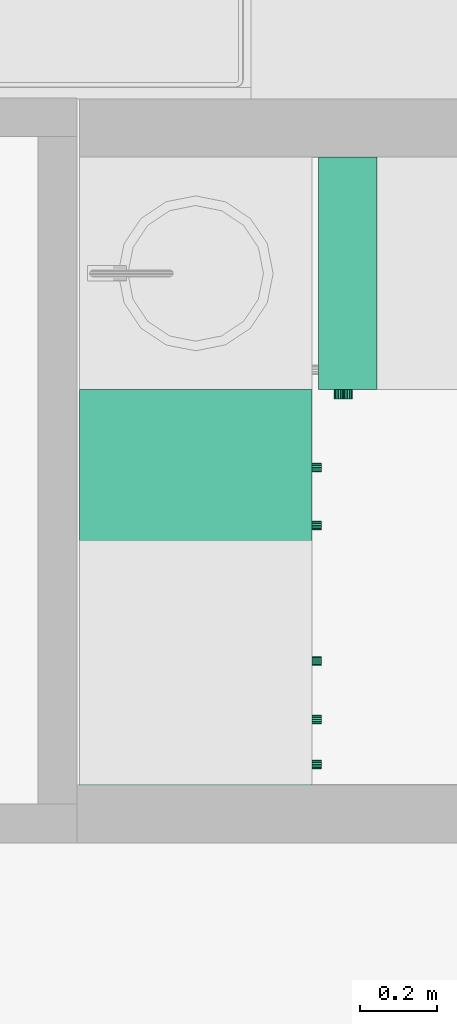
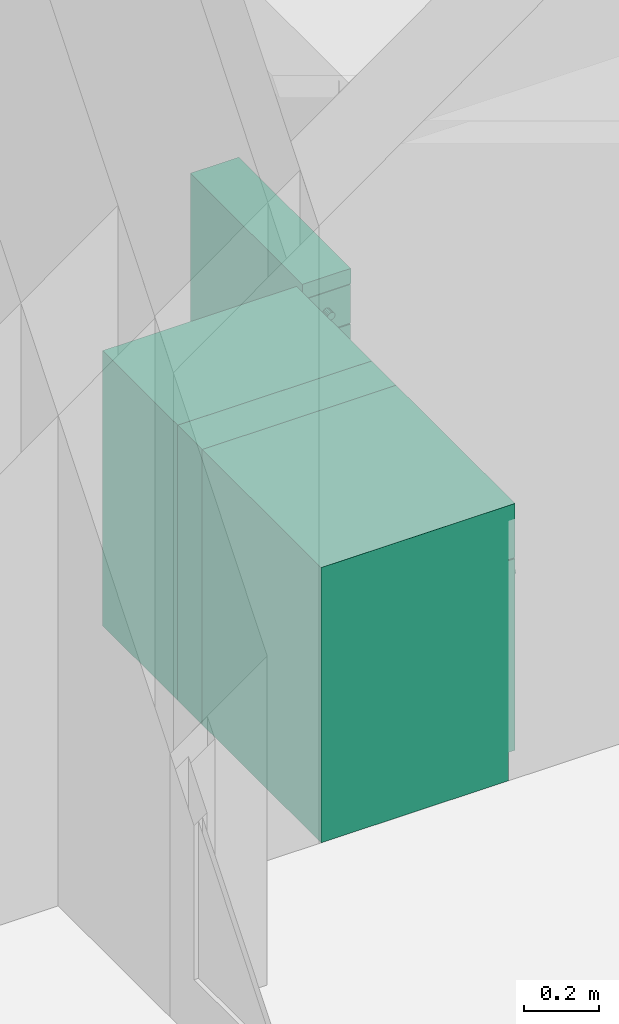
# One storey, part 43 of 165: 4 flow terminals.
"""IFC2X3 building model written with IfcOpenShell, lengths in millimetres."""

from ifc_helpers import new_model, entity, si_unit, converted_unit, money_unit, direction, frame, origin_with_axes, place, context, subcontext, project, spatial, faceted_brep, source, transform, mapped, material, material_list, type_object, element, save


model = new_model("IFC2X3")

# Units and contexts
model_context = context("Model", 3, precision=1e-05, world=origin_with_axes(), true_north=direction((0.0, 1.0)))
body_context = subcontext(model_context, "Body", "Model", "MODEL_VIEW")
ifc_project = project(units=[si_unit("LENGTHUNIT", "METRE", prefix="MILLI"), si_unit("AREAUNIT", "SQUARE_METRE"), si_unit("VOLUMEUNIT", "CUBIC_METRE"), converted_unit("PLANEANGLEUNIT", "DEGREE", entity("IfcPlaneAngleMeasure", 0.0174532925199), si_unit("PLANEANGLEUNIT", "RADIAN"), dimensions=[0, 0, 0, 0, 0, 0, 0]), si_unit("SOLIDANGLEUNIT", "STERADIAN"), money_unit("USD"), converted_unit("TIMEUNIT", "Year", entity("IfcTimeMeasure", 31556926.0), si_unit("TIMEUNIT", "SECOND"), dimensions=[0, 0, 0, 0, 0, 0, 0]), si_unit("MASSUNIT", "GRAM"), si_unit("THERMODYNAMICTEMPERATUREUNIT", "DEGREE_CELSIUS"), si_unit("LUMINOUSINTENSITYUNIT", "LUMEN")], contexts=[model_context])

# Site, building, storey
site_placement = place(None, origin_with_axes())
site = spatial("IfcSite", under=ifc_project, at=site_placement, Name="Site", CompositionType="ELEMENT")
building_placement = place(site_placement, origin_with_axes())
building = spatial("IfcBuilding", under=site, at=building_placement, Name="Building", CompositionType="ELEMENT")
storey_placement = place(building_placement, frame((0.0, 0.0, 6300.0), z_axis=(0.0, 0.0, 1.0), x_axis=(1.0, 0.0, 0.0)))
storey = spatial("IfcBuildingStorey", under=building, at=storey_placement, Name="4KORRUS", CompositionType="ELEMENT", Elevation=6300.0)

# Flow terminals
ifc_material = material(Name="Background")
ifc_material_list = material_list([ifc_material])
sanitary_terminal_type = type_object("IfcSanitaryTerminalType", Name="Cabinet Base Single Door 19", PredefinedType="SINK")
shared_shape_1 = source(origin_with_axes(), body_context, "Body", "Brep", [
    faceted_brep([(-20.0, 20.0, 710.0), (-20.0, 20.0, 730.0), (-382.248, 20.0, 730.0), (-382.248, 20.0, 710.0), (-20.0, 580.0, 710.0), (-20.0, 580.0, 730.0), (-382.248, 580.0, 730.0), (-382.248, 580.0, 710.0)], [[[0, 1, 2, 3]], [[4, 5, 1, 0]], [[1, 5, 6, 2]], [[3, 2, 6, 7]], [[0, 3, 7, 4]], [[7, 6, 5, 4]]]),
    faceted_brep([(0.0, 20.0, 0.0), (0.0, 20.0, 90.0), (-402.248, 20.0, 90.0), (-402.248, 20.0, 0.0), (0.0, 600.0, 0.0), (0.0, 600.0, 90.0), (-402.248, 600.0, 90.0), (-402.248, 600.0, 0.0)], [[[0, 1, 2, 3]], [[4, 5, 1, 0]], [[1, 5, 6, 2]], [[3, 2, 6, 7]], [[0, 3, 7, 4]], [[7, 6, 5, 4]]]),
    faceted_brep([(0.0, 20.0, 830.0), (0.0, 20.0, 850.0), (-20.0, 20.0, 850.0), (-20.0, 20.0, 830.0), (0.0, 600.0, 830.0), (0.0, 600.0, 850.0), (-20.0, 600.0, 850.0), (-382.248, 600.0, 850.0), (-402.248, 600.0, 850.0), (-402.248, 20.0, 850.0), (-382.248, 20.0, 850.0), (-382.248, 20.0, 830.0), (-402.248, 20.0, 830.0), (-402.248, 600.0, 830.0), (-382.248, 600.0, 830.0), (-20.0, 600.0, 830.0)], [[[0, 1, 2, 3]], [[4, 5, 1, 0]], [[1, 5, 6, 7, 8, 9, 10, 2]], [[3, 2, 10, 11]], [[0, 3, 11, 12, 13, 14, 15, 4]], [[15, 6, 5, 4]], [[14, 7, 6, 15]], [[13, 8, 7, 14]], [[12, 9, 8, 13]], [[11, 10, 9, 12]]]),
    faceted_brep([(0.0, 20.0, 90.0), (0.0, 20.0, 110.0), (-20.0, 20.0, 110.0), (-20.0, 20.0, 90.0), (0.0, 600.0, 90.0), (0.0, 600.0, 110.0), (-20.0, 600.0, 110.0), (-382.248, 600.0, 110.0), (-402.248, 600.0, 110.0), (-402.248, 20.0, 110.0), (-382.248, 20.0, 110.0), (-382.248, 20.0, 90.0), (-402.248, 20.0, 90.0), (-402.248, 600.0, 90.0), (-382.248, 600.0, 90.0), (-20.0, 600.0, 90.0)], [[[0, 1, 2, 3]], [[4, 5, 1, 0]], [[1, 5, 6, 7, 8, 9, 10, 2]], [[3, 2, 10, 11]], [[0, 3, 11, 12, 13, 14, 15, 4]], [[15, 6, 5, 4]], [[14, 7, 6, 15]], [[13, 8, 7, 14]], [[12, 9, 8, 13]], [[11, 10, 9, 12]]]),
    faceted_brep([(0.0, 20.0, 110.0), (0.0, 20.0, 830.0), (-20.0, 20.0, 830.0), (-20.0, 20.0, 110.0), (0.0, 600.0, 110.0), (0.0, 600.0, 830.0), (-402.248, 600.0, 830.0), (-402.248, 20.0, 830.0), (-382.248, 20.0, 830.0), (-382.248, 580.0, 830.0), (-20.0, 580.0, 830.0), (-20.0, 580.0, 110.0), (-382.248, 580.0, 110.0), (-382.248, 20.0, 110.0), (-402.248, 20.0, 110.0), (-402.248, 600.0, 110.0)], [[[0, 1, 2, 3]], [[4, 5, 1, 0]], [[1, 5, 6, 7, 8, 9, 10, 2]], [[3, 2, 10, 11]], [[0, 3, 11, 12, 13, 14, 15, 4]], [[15, 6, 5, 4]], [[14, 7, 6, 15]], [[13, 8, 7, 14]], [[12, 9, 8, 13]], [[11, 10, 9, 12]]]),
    faceted_brep([(-382.248, 20.0, 385.0), (-382.248, 20.0, 405.0), (-382.248, 580.0, 405.0), (-382.248, 580.0, 385.0), (-20.0, 20.0, 385.0), (-20.0, 20.0, 405.0), (-20.0, 580.0, 405.0), (-20.0, 580.0, 385.0)], [[[0, 1, 2, 3]], [[4, 5, 1, 0]], [[1, 5, 6, 2]], [[3, 2, 6, 7]], [[0, 3, 7, 4]], [[7, 6, 5, 4]]]),
    faceted_brep([(0.0, 0.0, 850.0), (0.0, 0.0, 900.0), (-402.248, 0.0, 900.0), (-402.248, 0.0, 850.0), (0.0, 600.0, 850.0), (0.0, 600.0, 900.0), (-402.248, 600.0, 900.0), (-402.248, 600.0, 850.0)], [[[0, 1, 2, 3]], [[4, 5, 1, 0]], [[1, 5, 6, 2]], [[3, 2, 6, 7]], [[0, 3, 7, 4]], [[7, 6, 5, 4]]]),
    faceted_brep([(-1.5, 20.0, 721.5), (-1.5, 0.0, 721.5), (-400.748, 0.0, 721.5), (-400.748, 20.0, 721.5), (-1.5, 20.0, 848.5), (-1.5, 0.0, 848.5), (-400.748, 0.0, 848.5), (-400.748, 20.0, 848.5)], [[[0, 1, 2, 3]], [[4, 5, 1, 0]], [[1, 5, 6, 2]], [[3, 2, 6, 7]], [[0, 3, 7, 4]], [[7, 6, 5, 4]]]),
    faceted_brep([(-196.532, 0.0, 773.913), (-201.124, 0.0, 773.0), (-205.716, 0.0, 773.913), (-209.609, 0.0, 776.515), (-212.211, 0.0, 780.408), (-213.124, 0.0, 785.0), (-212.211, 0.0, 789.592), (-209.609, 0.0, 793.485), (-205.716, 0.0, 796.087), (-201.124, 0.0, 797.0), (-196.532, 0.0, 796.087), (-192.639, 0.0, 793.485), (-190.038, 0.0, 789.592), (-189.124, 0.0, 785.0), (-190.038, 0.0, 780.408), (-192.639, 0.0, 776.515), (-196.532, -25.0, 773.913), (-201.124, -25.0, 773.0), (-205.716, -25.0, 773.913), (-209.609, -25.0, 776.515), (-212.211, -25.0, 780.408), (-213.124, -25.0, 785.0), (-212.211, -25.0, 789.592), (-209.609, -25.0, 793.485), (-205.716, -25.0, 796.087), (-201.124, -25.0, 797.0), (-196.532, -25.0, 796.087), (-192.639, -25.0, 793.485), (-190.038, -25.0, 789.592), (-189.124, -25.0, 785.0), (-190.038, -25.0, 780.408), (-192.639, -25.0, 776.515)], [[[0, 1, 2, 3, 4, 5, 6, 7, 8, 9, 10, 11, 12, 13, 14, 15]], [[0, 16, 17, 1]], [[1, 17, 18, 2]], [[2, 18, 19, 3]], [[3, 19, 20, 4]], [[4, 20, 21, 5]], [[5, 21, 22, 6]], [[6, 22, 23, 7]], [[7, 23, 24, 8]], [[8, 24, 25, 9]], [[9, 25, 26, 10]], [[10, 26, 27, 11]], [[11, 27, 28, 12]], [[12, 28, 29, 13]], [[13, 29, 30, 14]], [[14, 30, 31, 15]], [[15, 31, 16, 0]], [[16, 31, 30, 29, 28, 27, 26, 25, 24, 23, 22, 21, 20, 19, 18, 17]]]),
    faceted_brep([(-1.5, 20.0, 91.5), (-1.5, 0.0, 91.5), (-400.748, 0.0, 91.5), (-400.748, 20.0, 91.5), (-1.5, 20.0, 718.5), (-1.5, 0.0, 718.5), (-400.748, 0.0, 718.5), (-400.748, 20.0, 718.5)], [[[0, 1, 2, 3]], [[4, 5, 1, 0]], [[1, 5, 6, 2]], [[3, 2, 6, 7]], [[0, 3, 7, 4]], [[7, 6, 5, 4]]]),
    faceted_brep([(-361.835, 0.0, 636.908), (-362.748, 0.0, 641.5), (-361.835, 0.0, 646.092), (-359.234, 0.0, 649.985), (-355.341, 0.0, 652.587), (-350.748, 0.0, 653.5), (-346.156, 0.0, 652.587), (-342.263, 0.0, 649.985), (-339.662, 0.0, 646.092), (-338.748, 0.0, 641.5), (-339.662, 0.0, 636.908), (-342.263, 0.0, 633.015), (-346.156, 0.0, 630.413), (-350.748, 0.0, 629.5), (-355.341, 0.0, 630.413), (-359.234, 0.0, 633.015), (-361.835, -25.0, 636.908), (-362.748, -25.0, 641.5), (-361.835, -25.0, 646.092), (-359.234, -25.0, 649.985), (-355.341, -25.0, 652.587), (-350.748, -25.0, 653.5), (-346.156, -25.0, 652.587), (-342.263, -25.0, 649.985), (-339.662, -25.0, 646.092), (-338.748, -25.0, 641.5), (-339.662, -25.0, 636.908), (-342.263, -25.0, 633.015), (-346.156, -25.0, 630.413), (-350.748, -25.0, 629.5), (-355.341, -25.0, 630.413), (-359.234, -25.0, 633.015)], [[[0, 1, 2, 3, 4, 5, 6, 7, 8, 9, 10, 11, 12, 13, 14, 15]], [[0, 16, 17, 1]], [[1, 17, 18, 2]], [[2, 18, 19, 3]], [[3, 19, 20, 4]], [[4, 20, 21, 5]], [[5, 21, 22, 6]], [[6, 22, 23, 7]], [[7, 23, 24, 8]], [[8, 24, 25, 9]], [[9, 25, 26, 10]], [[10, 26, 27, 11]], [[11, 27, 28, 12]], [[12, 28, 29, 13]], [[13, 29, 30, 14]], [[14, 30, 31, 15]], [[15, 31, 16, 0]], [[16, 31, 30, 29, 28, 27, 26, 25, 24, 23, 22, 21, 20, 19, 18, 17]]]),
])
flow_terminal_1_placement = place(storey_placement, frame((-4933.30226501, -9966.37850445, 0.0), z_axis=(0.0, 0.0, 1.0), x_axis=(0.0, 1.0, 0.0)))
element("IfcFlowTerminal", 1, at=flow_terminal_1_placement, inside=storey, type_object=sanitary_terminal_type, material=ifc_material_list, Name="FU - 007", context=body_context, shape_type="MappedRepresentation", body=[
    mapped(shared_shape_1, transform((0.0, 0.0, 0.0))),
])
shared_shape_2 = source(origin_with_axes(), body_context, "Body", "Brep", [
    faceted_brep([(-20.0, 20.0, 710.0), (-20.0, 20.0, 730.0), (-130.0, 20.0, 730.0), (-130.0, 20.0, 710.0), (-20.0, 580.0, 710.0), (-20.0, 580.0, 730.0), (-130.0, 580.0, 730.0), (-130.0, 580.0, 710.0)], [[[0, 1, 2, 3]], [[4, 5, 1, 0]], [[1, 5, 6, 2]], [[3, 2, 6, 7]], [[0, 3, 7, 4]], [[7, 6, 5, 4]]]),
    faceted_brep([(0.0, 20.0, 0.0), (0.0, 20.0, 90.0), (-150.0, 20.0, 90.0), (-150.0, 20.0, 0.0), (0.0, 600.0, 0.0), (0.0, 600.0, 90.0), (-150.0, 600.0, 90.0), (-150.0, 600.0, 0.0)], [[[0, 1, 2, 3]], [[4, 5, 1, 0]], [[1, 5, 6, 2]], [[3, 2, 6, 7]], [[0, 3, 7, 4]], [[7, 6, 5, 4]]]),
    faceted_brep([(0.0, 20.0, 830.0), (0.0, 20.0, 850.0), (-20.0, 20.0, 850.0), (-20.0, 20.0, 830.0), (0.0, 600.0, 830.0), (0.0, 600.0, 850.0), (-20.0, 600.0, 850.0), (-130.0, 600.0, 850.0), (-150.0, 600.0, 850.0), (-150.0, 20.0, 850.0), (-130.0, 20.0, 850.0), (-130.0, 20.0, 830.0), (-150.0, 20.0, 830.0), (-150.0, 600.0, 830.0), (-130.0, 600.0, 830.0), (-20.0, 600.0, 830.0)], [[[0, 1, 2, 3]], [[4, 5, 1, 0]], [[1, 5, 6, 7, 8, 9, 10, 2]], [[3, 2, 10, 11]], [[0, 3, 11, 12, 13, 14, 15, 4]], [[15, 6, 5, 4]], [[14, 7, 6, 15]], [[13, 8, 7, 14]], [[12, 9, 8, 13]], [[11, 10, 9, 12]]]),
    faceted_brep([(0.0, 20.0, 90.0), (0.0, 20.0, 110.0), (-20.0, 20.0, 110.0), (-20.0, 20.0, 90.0), (0.0, 600.0, 90.0), (0.0, 600.0, 110.0), (-20.0, 600.0, 110.0), (-130.0, 600.0, 110.0), (-150.0, 600.0, 110.0), (-150.0, 20.0, 110.0), (-130.0, 20.0, 110.0), (-130.0, 20.0, 90.0), (-150.0, 20.0, 90.0), (-150.0, 600.0, 90.0), (-130.0, 600.0, 90.0), (-20.0, 600.0, 90.0)], [[[0, 1, 2, 3]], [[4, 5, 1, 0]], [[1, 5, 6, 7, 8, 9, 10, 2]], [[3, 2, 10, 11]], [[0, 3, 11, 12, 13, 14, 15, 4]], [[15, 6, 5, 4]], [[14, 7, 6, 15]], [[13, 8, 7, 14]], [[12, 9, 8, 13]], [[11, 10, 9, 12]]]),
    faceted_brep([(0.0, 20.0, 110.0), (0.0, 20.0, 830.0), (-20.0, 20.0, 830.0), (-20.0, 20.0, 110.0), (0.0, 600.0, 110.0), (0.0, 600.0, 830.0), (-150.0, 600.0, 830.0), (-150.0, 20.0, 830.0), (-130.0, 20.0, 830.0), (-130.0, 580.0, 830.0), (-20.0, 580.0, 830.0), (-20.0, 580.0, 110.0), (-130.0, 580.0, 110.0), (-130.0, 20.0, 110.0), (-150.0, 20.0, 110.0), (-150.0, 600.0, 110.0)], [[[0, 1, 2, 3]], [[4, 5, 1, 0]], [[1, 5, 6, 7, 8, 9, 10, 2]], [[3, 2, 10, 11]], [[0, 3, 11, 12, 13, 14, 15, 4]], [[15, 6, 5, 4]], [[14, 7, 6, 15]], [[13, 8, 7, 14]], [[12, 9, 8, 13]], [[11, 10, 9, 12]]]),
    faceted_brep([(-130.0, 20.0, 385.0), (-130.0, 20.0, 405.0), (-130.0, 580.0, 405.0), (-130.0, 580.0, 385.0), (-20.0, 20.0, 385.0), (-20.0, 20.0, 405.0), (-20.0, 580.0, 405.0), (-20.0, 580.0, 385.0)], [[[0, 1, 2, 3]], [[4, 5, 1, 0]], [[1, 5, 6, 2]], [[3, 2, 6, 7]], [[0, 3, 7, 4]], [[7, 6, 5, 4]]]),
    faceted_brep([(0.0, 0.0, 850.0), (0.0, 0.0, 900.0), (-150.0, 0.0, 900.0), (-150.0, 0.0, 850.0), (0.0, 600.0, 850.0), (0.0, 600.0, 900.0), (-150.0, 600.0, 900.0), (-150.0, 600.0, 850.0)], [[[0, 1, 2, 3]], [[4, 5, 1, 0]], [[1, 5, 6, 2]], [[3, 2, 6, 7]], [[0, 3, 7, 4]], [[7, 6, 5, 4]]]),
    faceted_brep([(-1.5, 20.0, 721.5), (-1.5, 0.0, 721.5), (-148.5, 0.0, 721.5), (-148.5, 20.0, 721.5), (-1.5, 20.0, 848.5), (-1.5, 0.0, 848.5), (-148.5, 0.0, 848.5), (-148.5, 20.0, 848.5)], [[[0, 1, 2, 3]], [[4, 5, 1, 0]], [[1, 5, 6, 2]], [[3, 2, 6, 7]], [[0, 3, 7, 4]], [[7, 6, 5, 4]]]),
    faceted_brep([(-70.408, 0.0, 773.913), (-75.0, 0.0, 773.0), (-79.592, 0.0, 773.913), (-83.485, 0.0, 776.515), (-86.087, 0.0, 780.408), (-87.0, 0.0, 785.0), (-86.087, 0.0, 789.592), (-83.485, 0.0, 793.485), (-79.592, 0.0, 796.087), (-75.0, 0.0, 797.0), (-70.408, 0.0, 796.087), (-66.515, 0.0, 793.485), (-63.913, 0.0, 789.592), (-63.0, 0.0, 785.0), (-63.913, 0.0, 780.408), (-66.515, 0.0, 776.515), (-70.408, -25.0, 773.913), (-75.0, -25.0, 773.0), (-79.592, -25.0, 773.913), (-83.485, -25.0, 776.515), (-86.087, -25.0, 780.408), (-87.0, -25.0, 785.0), (-86.087, -25.0, 789.592), (-83.485, -25.0, 793.485), (-79.592, -25.0, 796.087), (-75.0, -25.0, 797.0), (-70.408, -25.0, 796.087), (-66.515, -25.0, 793.485), (-63.913, -25.0, 789.592), (-63.0, -25.0, 785.0), (-63.913, -25.0, 780.408), (-66.515, -25.0, 776.515)], [[[0, 1, 2, 3, 4, 5, 6, 7, 8, 9, 10, 11, 12, 13, 14, 15]], [[0, 16, 17, 1]], [[1, 17, 18, 2]], [[2, 18, 19, 3]], [[3, 19, 20, 4]], [[4, 20, 21, 5]], [[5, 21, 22, 6]], [[6, 22, 23, 7]], [[7, 23, 24, 8]], [[8, 24, 25, 9]], [[9, 25, 26, 10]], [[10, 26, 27, 11]], [[11, 27, 28, 12]], [[12, 28, 29, 13]], [[13, 29, 30, 14]], [[14, 30, 31, 15]], [[15, 31, 16, 0]], [[16, 31, 30, 29, 28, 27, 26, 25, 24, 23, 22, 21, 20, 19, 18, 17]]]),
    faceted_brep([(-1.5, 20.0, 91.5), (-1.5, 0.0, 91.5), (-148.5, 0.0, 91.5), (-148.5, 20.0, 91.5), (-1.5, 20.0, 718.5), (-1.5, 0.0, 718.5), (-148.5, 0.0, 718.5), (-148.5, 20.0, 718.5)], [[[0, 1, 2, 3]], [[4, 5, 1, 0]], [[1, 5, 6, 2]], [[3, 2, 6, 7]], [[0, 3, 7, 4]], [[7, 6, 5, 4]]]),
    faceted_brep([(-109.587, 0.0, 636.908), (-110.5, 0.0, 641.5), (-109.587, 0.0, 646.092), (-106.985, 0.0, 649.985), (-103.092, 0.0, 652.587), (-98.5, 0.0, 653.5), (-93.908, 0.0, 652.587), (-90.015, 0.0, 649.985), (-87.413, 0.0, 646.092), (-86.5, 0.0, 641.5), (-87.413, 0.0, 636.908), (-90.015, 0.0, 633.015), (-93.908, 0.0, 630.413), (-98.5, 0.0, 629.5), (-103.092, 0.0, 630.413), (-106.985, 0.0, 633.015), (-109.587, -25.0, 636.908), (-110.5, -25.0, 641.5), (-109.587, -25.0, 646.092), (-106.985, -25.0, 649.985), (-103.092, -25.0, 652.587), (-98.5, -25.0, 653.5), (-93.908, -25.0, 652.587), (-90.015, -25.0, 649.985), (-87.413, -25.0, 646.092), (-86.5, -25.0, 641.5), (-87.413, -25.0, 636.908), (-90.015, -25.0, 633.015), (-93.908, -25.0, 630.413), (-98.5, -25.0, 629.5), (-103.092, -25.0, 630.413), (-106.985, -25.0, 633.015)], [[[0, 1, 2, 3, 4, 5, 6, 7, 8, 9, 10, 11, 12, 13, 14, 15]], [[0, 16, 17, 1]], [[1, 17, 18, 2]], [[2, 18, 19, 3]], [[3, 19, 20, 4]], [[4, 20, 21, 5]], [[5, 21, 22, 6]], [[6, 22, 23, 7]], [[7, 23, 24, 8]], [[8, 24, 25, 9]], [[9, 25, 26, 10]], [[10, 26, 27, 11]], [[11, 27, 28, 12]], [[12, 28, 29, 13]], [[13, 29, 30, 14]], [[14, 30, 31, 15]], [[15, 31, 16, 0]], [[16, 31, 30, 29, 28, 27, 26, 25, 24, 23, 22, 21, 20, 19, 18, 17]]]),
])
flow_terminal_2_placement = place(storey_placement, frame((-4765.7435229, -9966.37850445, 0.0), z_axis=(0.0, 0.0, 1.0), x_axis=(1.0, 0.0, 0.0)))
element("IfcFlowTerminal", 2, at=flow_terminal_2_placement, inside=storey, type_object=sanitary_terminal_type, material=ifc_material_list, Name="FU - 007", context=body_context, shape_type="MappedRepresentation", body=[
    mapped(shared_shape_2, transform((0.0, 0.0, 0.0))),
])
shared_shape_3 = source(origin_with_axes(), body_context, "Body", "Brep", [
    faceted_brep([(-20.0, 20.0, 710.0), (-20.0, 20.0, 730.0), (-616.859, 20.0, 730.0), (-616.859, 20.0, 710.0), (-20.0, 580.0, 710.0), (-20.0, 580.0, 730.0), (-616.859, 580.0, 730.0), (-616.859, 580.0, 710.0)], [[[0, 1, 2, 3]], [[4, 5, 1, 0]], [[1, 5, 6, 2]], [[3, 2, 6, 7]], [[0, 3, 7, 4]], [[7, 6, 5, 4]]]),
    faceted_brep([(0.0, 20.0, 0.0), (0.0, 20.0, 90.0), (-636.859, 20.0, 90.0), (-636.859, 20.0, 0.0), (0.0, 600.0, 0.0), (0.0, 600.0, 90.0), (-636.859, 600.0, 90.0), (-636.859, 600.0, 0.0)], [[[0, 1, 2, 3]], [[4, 5, 1, 0]], [[1, 5, 6, 2]], [[3, 2, 6, 7]], [[0, 3, 7, 4]], [[7, 6, 5, 4]]]),
    faceted_brep([(0.0, 20.0, 830.0), (0.0, 20.0, 850.0), (-20.0, 20.0, 850.0), (-20.0, 20.0, 830.0), (0.0, 600.0, 830.0), (0.0, 600.0, 850.0), (-20.0, 600.0, 850.0), (-616.859, 600.0, 850.0), (-636.859, 600.0, 850.0), (-636.859, 20.0, 850.0), (-616.859, 20.0, 850.0), (-616.859, 20.0, 830.0), (-636.859, 20.0, 830.0), (-636.859, 600.0, 830.0), (-616.859, 600.0, 830.0), (-20.0, 600.0, 830.0)], [[[0, 1, 2, 3]], [[4, 5, 1, 0]], [[1, 5, 6, 7, 8, 9, 10, 2]], [[3, 2, 10, 11]], [[0, 3, 11, 12, 13, 14, 15, 4]], [[15, 6, 5, 4]], [[14, 7, 6, 15]], [[13, 8, 7, 14]], [[12, 9, 8, 13]], [[11, 10, 9, 12]]]),
    faceted_brep([(0.0, 20.0, 90.0), (0.0, 20.0, 110.0), (-20.0, 20.0, 110.0), (-20.0, 20.0, 90.0), (0.0, 600.0, 90.0), (0.0, 600.0, 110.0), (-20.0, 600.0, 110.0), (-616.859, 600.0, 110.0), (-636.859, 600.0, 110.0), (-636.859, 20.0, 110.0), (-616.859, 20.0, 110.0), (-616.859, 20.0, 90.0), (-636.859, 20.0, 90.0), (-636.859, 600.0, 90.0), (-616.859, 600.0, 90.0), (-20.0, 600.0, 90.0)], [[[0, 1, 2, 3]], [[4, 5, 1, 0]], [[1, 5, 6, 7, 8, 9, 10, 2]], [[3, 2, 10, 11]], [[0, 3, 11, 12, 13, 14, 15, 4]], [[15, 6, 5, 4]], [[14, 7, 6, 15]], [[13, 8, 7, 14]], [[12, 9, 8, 13]], [[11, 10, 9, 12]]]),
    faceted_brep([(0.0, 20.0, 110.0), (0.0, 20.0, 830.0), (-20.0, 20.0, 830.0), (-20.0, 20.0, 110.0), (0.0, 600.0, 110.0), (0.0, 600.0, 830.0), (-636.859, 600.0, 830.0), (-636.859, 20.0, 830.0), (-616.859, 20.0, 830.0), (-616.859, 580.0, 830.0), (-20.0, 580.0, 830.0), (-20.0, 580.0, 110.0), (-616.859, 580.0, 110.0), (-616.859, 20.0, 110.0), (-636.859, 20.0, 110.0), (-636.859, 600.0, 110.0)], [[[0, 1, 2, 3]], [[4, 5, 1, 0]], [[1, 5, 6, 7, 8, 9, 10, 2]], [[3, 2, 10, 11]], [[0, 3, 11, 12, 13, 14, 15, 4]], [[15, 6, 5, 4]], [[14, 7, 6, 15]], [[13, 8, 7, 14]], [[12, 9, 8, 13]], [[11, 10, 9, 12]]]),
    faceted_brep([(-616.859, 20.0, 385.0), (-616.859, 20.0, 405.0), (-616.859, 580.0, 405.0), (-616.859, 580.0, 385.0), (-20.0, 20.0, 385.0), (-20.0, 20.0, 405.0), (-20.0, 580.0, 405.0), (-20.0, 580.0, 385.0)], [[[0, 1, 2, 3]], [[4, 5, 1, 0]], [[1, 5, 6, 2]], [[3, 2, 6, 7]], [[0, 3, 7, 4]], [[7, 6, 5, 4]]]),
    faceted_brep([(0.0, 0.0, 850.0), (0.0, 0.0, 900.0), (-636.859, 0.0, 900.0), (-636.859, 0.0, 850.0), (0.0, 600.0, 850.0), (0.0, 600.0, 900.0), (-636.859, 600.0, 900.0), (-636.859, 600.0, 850.0)], [[[0, 1, 2, 3]], [[4, 5, 1, 0]], [[1, 5, 6, 2]], [[3, 2, 6, 7]], [[0, 3, 7, 4]], [[7, 6, 5, 4]]]),
    faceted_brep([(-1.5, 20.0, 721.5), (-1.5, 0.0, 721.5), (-635.359, 0.0, 721.5), (-635.359, 20.0, 721.5), (-1.5, 20.0, 848.5), (-1.5, 0.0, 848.5), (-635.359, 0.0, 848.5), (-635.359, 20.0, 848.5)], [[[0, 1, 2, 3]], [[4, 5, 1, 0]], [[1, 5, 6, 2]], [[3, 2, 6, 7]], [[0, 3, 7, 4]], [[7, 6, 5, 4]]]),
    faceted_brep([(-313.837, 0.0, 773.913), (-318.43, 0.0, 773.0), (-323.022, 0.0, 773.913), (-326.915, 0.0, 776.515), (-329.516, 0.0, 780.408), (-330.43, 0.0, 785.0), (-329.516, 0.0, 789.592), (-326.915, 0.0, 793.485), (-323.022, 0.0, 796.087), (-318.43, 0.0, 797.0), (-313.837, 0.0, 796.087), (-309.944, 0.0, 793.485), (-307.343, 0.0, 789.592), (-306.43, 0.0, 785.0), (-307.343, 0.0, 780.408), (-309.944, 0.0, 776.515), (-313.837, -25.0, 773.913), (-318.43, -25.0, 773.0), (-323.022, -25.0, 773.913), (-326.915, -25.0, 776.515), (-329.516, -25.0, 780.408), (-330.43, -25.0, 785.0), (-329.516, -25.0, 789.592), (-326.915, -25.0, 793.485), (-323.022, -25.0, 796.087), (-318.43, -25.0, 797.0), (-313.837, -25.0, 796.087), (-309.944, -25.0, 793.485), (-307.343, -25.0, 789.592), (-306.43, -25.0, 785.0), (-307.343, -25.0, 780.408), (-309.944, -25.0, 776.515)], [[[0, 1, 2, 3, 4, 5, 6, 7, 8, 9, 10, 11, 12, 13, 14, 15]], [[0, 16, 17, 1]], [[1, 17, 18, 2]], [[2, 18, 19, 3]], [[3, 19, 20, 4]], [[4, 20, 21, 5]], [[5, 21, 22, 6]], [[6, 22, 23, 7]], [[7, 23, 24, 8]], [[8, 24, 25, 9]], [[9, 25, 26, 10]], [[10, 26, 27, 11]], [[11, 27, 28, 12]], [[12, 28, 29, 13]], [[13, 29, 30, 14]], [[14, 30, 31, 15]], [[15, 31, 16, 0]], [[16, 31, 30, 29, 28, 27, 26, 25, 24, 23, 22, 21, 20, 19, 18, 17]]]),
    faceted_brep([(-1.5, 20.0, 91.5), (-1.5, 0.0, 91.5), (-635.359, 0.0, 91.5), (-635.359, 20.0, 91.5), (-1.5, 20.0, 718.5), (-1.5, 0.0, 718.5), (-635.359, 0.0, 718.5), (-635.359, 20.0, 718.5)], [[[0, 1, 2, 3]], [[4, 5, 1, 0]], [[1, 5, 6, 2]], [[3, 2, 6, 7]], [[0, 3, 7, 4]], [[7, 6, 5, 4]]]),
    faceted_brep([(-596.446, 0.0, 636.908), (-597.359, 0.0, 641.5), (-596.446, 0.0, 646.092), (-593.844, 0.0, 649.985), (-589.951, 0.0, 652.587), (-585.359, 0.0, 653.5), (-580.767, 0.0, 652.587), (-576.874, 0.0, 649.985), (-574.273, 0.0, 646.092), (-573.359, 0.0, 641.5), (-574.273, 0.0, 636.908), (-576.874, 0.0, 633.015), (-580.767, 0.0, 630.413), (-585.359, 0.0, 629.5), (-589.951, 0.0, 630.413), (-593.844, 0.0, 633.015), (-596.446, -25.0, 636.908), (-597.359, -25.0, 641.5), (-596.446, -25.0, 646.092), (-593.844, -25.0, 649.985), (-589.951, -25.0, 652.587), (-585.359, -25.0, 653.5), (-580.767, -25.0, 652.587), (-576.874, -25.0, 649.985), (-574.273, -25.0, 646.092), (-573.359, -25.0, 641.5), (-574.273, -25.0, 636.908), (-576.874, -25.0, 633.015), (-580.767, -25.0, 630.413), (-585.359, -25.0, 629.5), (-589.951, -25.0, 630.413), (-593.844, -25.0, 633.015)], [[[0, 1, 2, 3, 4, 5, 6, 7, 8, 9, 10, 11, 12, 13, 14, 15]], [[0, 16, 17, 1]], [[1, 17, 18, 2]], [[2, 18, 19, 3]], [[3, 19, 20, 4]], [[4, 20, 21, 5]], [[5, 21, 22, 6]], [[6, 22, 23, 7]], [[7, 23, 24, 8]], [[8, 24, 25, 9]], [[9, 25, 26, 10]], [[10, 26, 27, 11]], [[11, 27, 28, 12]], [[12, 28, 29, 13]], [[13, 29, 30, 14]], [[14, 30, 31, 15]], [[15, 31, 16, 0]], [[16, 31, 30, 29, 28, 27, 26, 25, 24, 23, 22, 21, 20, 19, 18, 17]]]),
])
for number, where, z_axis, x_axis, name in (
    (3, (-4933.30226501, -10499.7450105, 0.0), (0.0, 0.0, 1.0), (0.0, 1.0, 0.0), "FU - 007"),
    (4, (-4933.30226501, -10348.7449658, 0.0), (0.0, 0.0, 1.0), (0.0, 1.0, 0.0), "FU - 007"),
):
    element("IfcFlowTerminal", number, at=place(storey_placement, frame(where, z_axis=z_axis, x_axis=x_axis)), inside=storey, type_object=sanitary_terminal_type, material=ifc_material_list, Name=name, context=body_context, shape_type="MappedRepresentation", body=[
        mapped(shared_shape_3, transform((0.0, 0.0, 0.0))),
    ])

save(model, "model.ifc")
